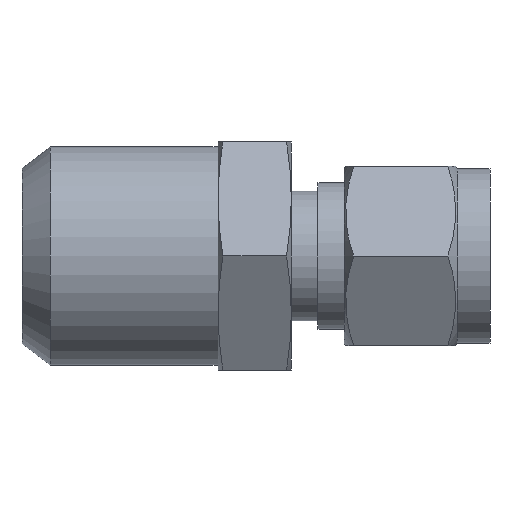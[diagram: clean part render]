
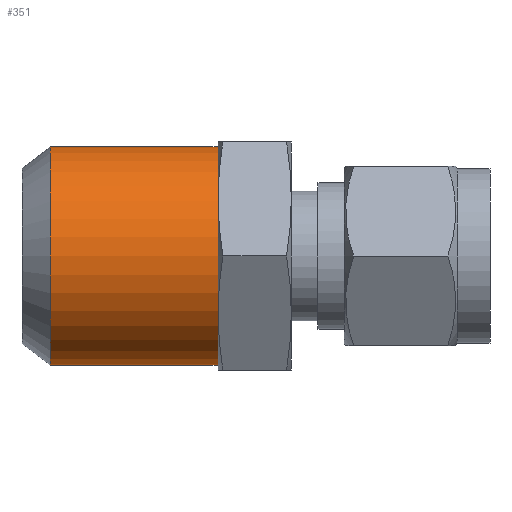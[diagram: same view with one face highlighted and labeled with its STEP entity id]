
A CAD part, front view. The second image highlights one B-rep face of the part: STEP entity #351.
In plain terms, the highlighted cylindrical face has radius 10.65 mm (diameter 21.3 mm), a partial arc.
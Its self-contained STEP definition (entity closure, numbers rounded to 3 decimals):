
#259 = EDGE_CURVE ( 'NONE', #267, #266, #1037, .T. ) ;
#266 = VERTEX_POINT ( 'NONE', #1017 ) ;
#267 = VERTEX_POINT ( 'NONE', #1016 ) ;
#269 = EDGE_CURVE ( 'NONE', #266, #270, #1015, .T. ) ;
#270 = VERTEX_POINT ( 'NONE', #1011 ) ;
#273 = VERTEX_POINT ( 'NONE', #1005 ) ;
#275 = EDGE_CURVE ( 'NONE', #267, #273, #1004, .T. ) ;
#351 = ADVANCED_FACE ( 'NONE', ( #1106 ), #968, .T. ) ;
#352 = EDGE_LOOP ( 'NONE', ( #353, #354, #355, #356 ) ) ;
#353 = ORIENTED_EDGE ( 'NONE', *, *, #269, .F. ) ;
#354 = ORIENTED_EDGE ( 'NONE', *, *, #259, .F. ) ;
#355 = ORIENTED_EDGE ( 'NONE', *, *, #275, .T. ) ;
#356 = ORIENTED_EDGE ( 'NONE', *, *, #357, .T. ) ;
#357 = EDGE_CURVE ( 'NONE', #273, #270, #1281, .T. ) ;
#968 = CYLINDRICAL_SURFACE ( 'NONE', #1105, 10.65 ) ;
#1001 = DIRECTION ( 'NONE',  ( 1., 0., 0. ) ) ;
#1002 = VECTOR ( 'NONE', #1001, 1000. ) ;
#1003 = CARTESIAN_POINT ( 'NONE',  ( -19.1, 0., -10.65 ) ) ;
#1004 = LINE ( 'NONE', #1003, #1002 ) ;
#1005 = CARTESIAN_POINT ( 'NONE',  ( 0., 0., -10.65 ) ) ;
#1011 = CARTESIAN_POINT ( 'NONE',  ( 0., 0., 10.65 ) ) ;
#1012 = DIRECTION ( 'NONE',  ( 1., 0., 0. ) ) ;
#1013 = VECTOR ( 'NONE', #1012, 1000. ) ;
#1014 = CARTESIAN_POINT ( 'NONE',  ( -19.1, 0., 10.65 ) ) ;
#1015 = LINE ( 'NONE', #1014, #1013 ) ;
#1016 = CARTESIAN_POINT ( 'NONE',  ( -16.363, 0., -10.65 ) ) ;
#1017 = CARTESIAN_POINT ( 'NONE',  ( -16.363, 0., 10.65 ) ) ;
#1033 = DIRECTION ( 'NONE',  ( 0., 0., -1. ) ) ;
#1034 = DIRECTION ( 'NONE',  ( -1., 0., 0. ) ) ;
#1035 = CARTESIAN_POINT ( 'NONE',  ( -16.363, 0., 0. ) ) ;
#1036 = AXIS2_PLACEMENT_3D ( 'NONE', #1035, #1034, #1033 ) ;
#1037 = CIRCLE ( 'NONE', #1036, 10.65 ) ;
#1105 = AXIS2_PLACEMENT_3D ( 'NONE', #1300, #1299, #1282 ) ;
#1106 = FACE_OUTER_BOUND ( 'NONE', #352, .T. ) ;
#1277 = DIRECTION ( 'NONE',  ( 0., 0., -1. ) ) ;
#1278 = DIRECTION ( 'NONE',  ( -1., 0., 0. ) ) ;
#1279 = CARTESIAN_POINT ( 'NONE',  ( 0., 0., 0. ) ) ;
#1280 = AXIS2_PLACEMENT_3D ( 'NONE', #1279, #1278, #1277 ) ;
#1281 = CIRCLE ( 'NONE', #1280, 10.65 ) ;
#1282 = DIRECTION ( 'NONE',  ( 0., 0., -1. ) ) ;
#1299 = DIRECTION ( 'NONE',  ( 1., 0., 0. ) ) ;
#1300 = CARTESIAN_POINT ( 'NONE',  ( -19.1, 0., 0. ) ) ;
